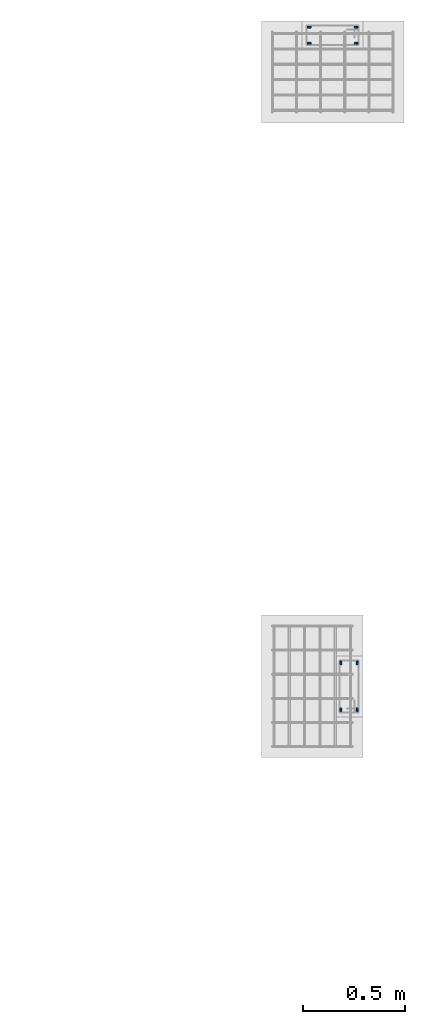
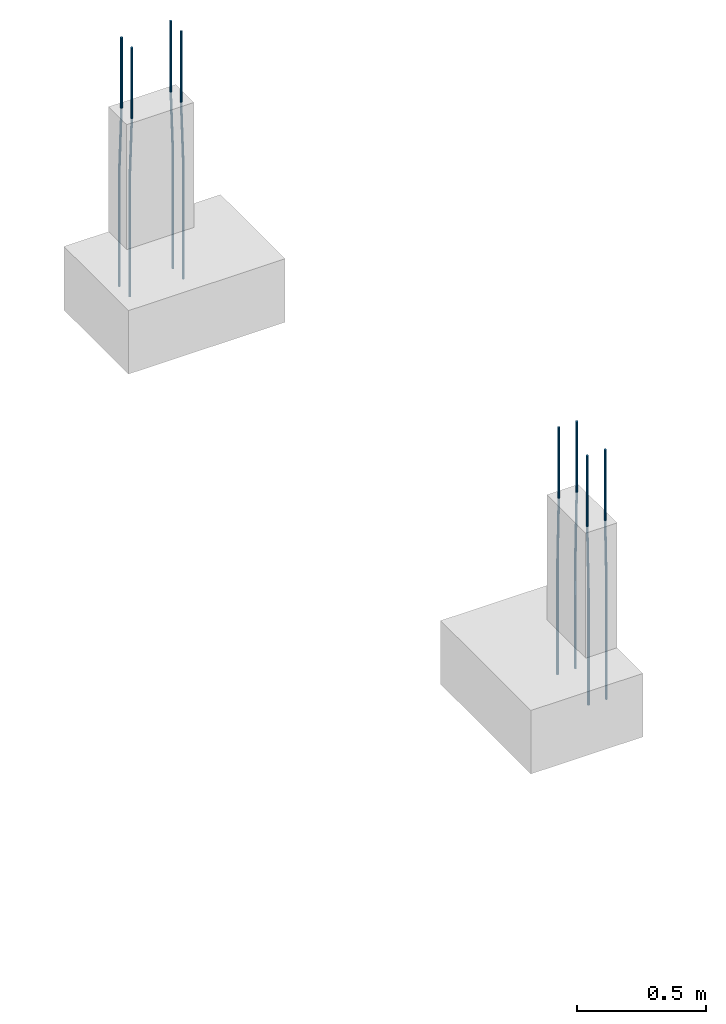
# One storey, part 67 of 119: 8 reinforcing bars.
"""IFC4 building model written with IfcOpenShell, lengths in centimetres."""

import ifcopenshell
import ifcopenshell.guid

model = None  # the IFC model being written
_history = None  # IfcOwnerHistory: only IFC2X3 demands one
_inside = {}  # id of a spatial element -> (the spatial element, [elements in it])
_under = {}  # id of a project, library or spatial element -> (it, [spatial elements below it])
_declared = {}  # id of a project -> (the project, [libraries it declares])
_typed = {}  # id of a type object -> (the type object, [elements of that type])
_made_of = {}  # id of a material, layer set ... -> (it, [elements and type objects made of it])


def new_model(schema):
    """Start an empty IFC model of exactly this schema.

    Asked for "IFC4X3", IfcOpenShell would pick the latest addendum, in which some entities
    have other attributes; the version numbers below select the first issue.
    IFC2X3 requires an IfcOwnerHistory on every rooted entity: one is made here for all.
    """
    global model, _history
    if schema == "IFC4X3":
        model = ifcopenshell.file(schema_version=(4, 3, 0, 0))
    else:
        model = ifcopenshell.file(schema=schema)
    _inside.clear()
    _under.clear()
    _declared.clear()
    _typed.clear()
    _made_of.clear()
    _history = None
    if model.schema == "IFC2X3":
        org = make("IfcOrganization", Name="unknown")
        user = make(
            "IfcPersonAndOrganization",
            ThePerson=make("IfcPerson", FamilyName="unknown"),
            TheOrganization=org,
        )
        app = make(
            "IfcApplication",
            ApplicationDeveloper=org,
            Version="unknown",
            ApplicationFullName="unknown",
            ApplicationIdentifier="unknown",
        )
        _history = make(
            "IfcOwnerHistory",
            OwningUser=user,
            OwningApplication=app,
            ChangeAction="ADDED",
            CreationDate=0,
        )
    return model


def make(cls, **values):
    """One entity of the class cls with the attributes given. An attribute that is None is left unset."""
    return model.create_entity(
        cls, **{name: value for name, value in values.items() if value is not None}
    )


def entity(cls, *values):
    """Any entity or typed value of the class cls, its attributes in the order of the schema. None: left unset."""
    e = model.create_entity(cls)
    for i, value in enumerate(values):
        if value is not None:
            e[i] = value
    return e


def rooted(cls, **values):
    """An entity with a GlobalId (a new one), such as an element, a storey or a relation."""
    return make(cls, GlobalId=ifcopenshell.guid.new(), OwnerHistory=_history, **values)


def si_unit(unit_type, name, prefix=None):
    """IfcSIUnit, for example si_unit("LENGTHUNIT", "METRE", prefix="MILLI")."""
    return make("IfcSIUnit", UnitType=unit_type, Prefix=prefix, Name=name)


def derived_unit(unit_type, elements):
    """IfcDerivedUnit: a product of units, each with its exponent."""
    return make(
        "IfcDerivedUnit",
        Elements=[
            make("IfcDerivedUnitElement", Unit=unit, Exponent=power)
            for unit, power in elements
        ],
        UnitType=unit_type,
    )


def assignment(units):
    """IfcUnitAssignment: the units of a project."""
    return None if units is None else make("IfcUnitAssignment", Units=units)


def point(xyz):
    """IfcCartesianPoint."""
    return None if xyz is None else make("IfcCartesianPoint", Coordinates=xyz)


def direction(xyz):
    """IfcDirection."""
    return None if xyz is None else make("IfcDirection", DirectionRatios=xyz)


def frame(location, z_axis=None, x_axis=None):
    """IfcAxis2Placement3D, a coordinate frame: its origin and axes. An axis left out is left unset."""
    return make(
        "IfcAxis2Placement3D",
        Location=point(location),
        Axis=direction(z_axis),
        RefDirection=direction(x_axis),
    )


def origin_with_axes():
    """The frame at (0, 0, 0) with the z axis (0, 0, 1) and the x axis (1, 0, 0) written out."""
    return frame((0.0, 0.0, 0.0), z_axis=(0.0, 0.0, 1.0), x_axis=(1.0, 0.0, 0.0))


def place(relative_to, where):
    """IfcLocalPlacement: puts the frame where relative to a parent placement (None: the world)."""
    return make(
        "IfcLocalPlacement", PlacementRelTo=relative_to, RelativePlacement=where
    )


def context(
    kind, dimensions, precision=None, world=None, true_north=None, identifier=None
):
    """IfcGeometricRepresentationContext, for example the 3D "Model" context."""
    return make(
        "IfcGeometricRepresentationContext",
        ContextIdentifier=identifier,
        ContextType=kind,
        CoordinateSpaceDimension=dimensions,
        Precision=precision,
        WorldCoordinateSystem=world,
        TrueNorth=true_north,
    )


def project(units=None, contexts=None):
    """IfcProject with its units and contexts."""
    return rooted(
        "IfcProject",
        Name="project",
        RepresentationContexts=contexts,
        UnitsInContext=assignment(units),
    )


def spatial(cls, under=None, at=None, **own):
    """A site, building, storey or space (cls), placed at a placement, below another one or the project."""
    s = rooted(cls, ObjectPlacement=at, **own)
    if under is not None:
        _under.setdefault(under.id(), (under, []))[1].append(s)
    return s


def shape(context_of_items, identifier, shape_type, items):
    """IfcShapeRepresentation: the items that make up one representation, for example the "Body"."""
    return make(
        "IfcShapeRepresentation",
        ContextOfItems=context_of_items,
        RepresentationIdentifier=identifier,
        RepresentationType=shape_type,
        Items=items,
    )


def made_of(thing, what):
    """Note that an element or type object is made of a material, layer set ...; save() writes the relation."""
    if what is not None:
        _made_of.setdefault(what.id(), (what, []))[1].append(thing)
    return thing


def element(
    cls,
    number,
    at=None,
    inside=None,
    cuts=None,
    type_object=None,
    material=None,
    context=None,
    identifier="Body",
    shape_type=None,
    held_by="IfcProductDefinitionShape",
    body=None,
    shapes=None,
    **own,
):
    """One element of the class cls, such as IfcWall. Its Tag is "e" and its number.

    at: its placement. inside: the storey or other place that contains it. cuts: it is an
    opening in that element (IfcRelVoidsElement). A single representation is given by context,
    identifier, shape_type and body (its items); several are given by shapes. held_by: the class
    of the entity that holds the representations. save() writes the other relations.
    """
    e = rooted(cls, Tag="e%d" % number, ObjectPlacement=at, **own)
    if body is not None:
        shapes = [shape(context, identifier, shape_type, body)]
    if shapes is not None:
        e.Representation = make(held_by, Representations=shapes)
    if inside is not None:
        _inside.setdefault(inside.id(), (inside, []))[1].append(e)
    if cuts is not None:
        rooted(
            "IfcRelVoidsElement", RelatingBuildingElement=cuts, RelatedOpeningElement=e
        )
    if type_object is not None:
        _typed.setdefault(type_object.id(), (type_object, []))[1].append(e)
    return made_of(e, material)


def aggregate(whole, parts):
    """IfcRelAggregates: a whole, such as a stair, and the parts it consists of."""
    return rooted("IfcRelAggregates", RelatingObject=whole, RelatedObjects=parts)


def save(model, path):
    """Write the relations noted so far, then the file.

    IfcRelAggregates (storeys below a building ...), IfcRelContainedInSpatialStructure (elements
    in a storey), IfcRelDefinesByType, IfcRelAssociatesMaterial and IfcRelDeclares: one each for
    every whole, place, type object, material and project.
    """
    for whole, parts in _under.values():
        aggregate(whole, parts)
    for where, things in _inside.values():
        rooted(
            "IfcRelContainedInSpatialStructure",
            RelatedElements=things,
            RelatingStructure=where,
        )
    for kind, things in _typed.values():
        rooted("IfcRelDefinesByType", RelatedObjects=things, RelatingType=kind)
    for what, things in _made_of.values():
        rooted("IfcRelAssociatesMaterial", RelatedObjects=things, RelatingMaterial=what)
    for by, libraries in _declared.values():
        rooted("IfcRelDeclares", RelatingContext=by, RelatedDefinitions=libraries)
    model.write(path)


model = new_model("IFC4")

# Units and contexts
model_context = context("Model", 3, precision=1e-05, world=origin_with_axes(), identifier="Body")
ifc_project = project(units=[si_unit("LENGTHUNIT", "METRE", prefix="CENTI"), si_unit("VOLUMEUNIT", "CUBIC_METRE"), si_unit("AREAUNIT", "SQUARE_METRE"), si_unit("POWERUNIT", "WATT"), si_unit("LUMINOUSFLUXUNIT", "LUMEN"), si_unit("ELECTRICCURRENTUNIT", "AMPERE"), si_unit("PRESSUREUNIT", "PASCAL", prefix="KILO"), si_unit("MASSUNIT", "GRAM", prefix="KILO"), si_unit("PLANEANGLEUNIT", "RADIAN"), derived_unit("VOLUMETRICFLOWRATEUNIT", [(si_unit("LENGTHUNIT", "METRE"), 3), (si_unit("TIMEUNIT", "SECOND"), -1)])], contexts=[model_context])

# Site, building, storey
site_placement = place(None, frame((-4000.0, 0.0, 0.0), z_axis=(0.0, 0.0, 1.0), x_axis=(1.0, 0.0, 0.0)))
site = spatial("IfcSite", under=ifc_project, at=site_placement, Name="PADRÃO")
building_placement = place(site_placement, frame((0.0, 0.0, -14.0)))
building = spatial("IfcBuilding", under=site, at=building_placement, Name="CRECHE PRÉ-ESCOLA TIPO 2")
storey_placement = place(building_placement, origin_with_axes())
storey = spatial("IfcBuildingStorey", under=building, at=storey_placement, Name="FUNDAÇÃO", CompositionType="ELEMENT", Elevation=-14.0)

# Reinforcing bars
for number, where, z_axis, x_axis, name in (
    (1, (3995.5, 4492.0, 33.3573001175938), (0.0, 0.0, 1.0), (1.0, 0.0, 0.0), "P14 - Longitudinal"),
    (2, (3995.5, 4484.0, 33.3573001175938), (0.0, 0.0, 1.0), (1.0, 0.0, 0.0), "P14 - Longitudinal"),
):
    element("IfcReinforcingBar", number, at=place(storey_placement, frame(where, z_axis=z_axis, x_axis=x_axis)), inside=storey, Name=name, BarLength=0.0, CrossSectionArea=7.853981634e-05, NominalDiameter=1.0, PredefinedType="MAIN", context=model_context, shape_type="AdvancedSweptSolid", body=[
        entity("IfcSweptDiskSolid", entity("IfcCompositeCurve", [entity("IfcCompositeCurveSegment", "CONTINUOUS", True, entity("IfcPolyline", [entity("IfcCartesianPoint", [0.5, 0.0, -117.357300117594]), entity("IfcCartesianPoint", [0.5, 0.0, -63.3573001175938])])), entity("IfcCompositeCurveSegment", "CONTINUOUS", True, entity("IfcPolyline", [entity("IfcCartesianPoint", [0.5, 0.0, -63.3573001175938]), entity("IfcCartesianPoint", [-0.5, 0.0, -33.3573001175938])])), entity("IfcCompositeCurveSegment", "CONTINUOUS", True, entity("IfcPolyline", [entity("IfcCartesianPoint", [-0.5, 0.0, -33.3573001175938]), entity("IfcCartesianPoint", [-0.5, 0.0, 0.0])]))], False), 0.5),
    ])
for number, where, z_axis, x_axis, name in (
    (3, (3972.5, 4484.0, 33.3573001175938), (0.0, 0.0, 1.0), (1.0, 0.0, 0.0), "P14 - Longitudinal"),
    (4, (3972.5, 4492.0, 33.3573001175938), (0.0, 0.0, 1.0), (1.0, 0.0, 0.0), "P14 - Longitudinal"),
):
    element("IfcReinforcingBar", number, at=place(storey_placement, frame(where, z_axis=z_axis, x_axis=x_axis)), inside=storey, Name=name, BarLength=0.0, CrossSectionArea=7.853981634e-05, NominalDiameter=1.0, PredefinedType="MAIN", context=model_context, shape_type="AdvancedSweptSolid", body=[
        entity("IfcSweptDiskSolid", entity("IfcCompositeCurve", [entity("IfcCompositeCurveSegment", "CONTINUOUS", True, entity("IfcPolyline", [entity("IfcCartesianPoint", [-0.5, 0.0, -117.357300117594]), entity("IfcCartesianPoint", [-0.5, 0.0, -63.3573001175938])])), entity("IfcCompositeCurveSegment", "CONTINUOUS", True, entity("IfcPolyline", [entity("IfcCartesianPoint", [-0.5, 0.0, -63.3573001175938]), entity("IfcCartesianPoint", [0.5, 0.0, -33.3573001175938])])), entity("IfcCompositeCurveSegment", "CONTINUOUS", True, entity("IfcPolyline", [entity("IfcCartesianPoint", [0.5, 0.0, -33.3573001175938]), entity("IfcCartesianPoint", [0.5, 0.0, 0.0])]))], False), 0.5),
    ])
reinforcing_bar_1_placement = place(storey_placement, frame((3996.0, 4180.0, 33.3573001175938), z_axis=(0.0, 0.0, 1.0), x_axis=(1.0, 0.0, 0.0)))
element("IfcReinforcingBar", 5, at=reinforcing_bar_1_placement, inside=storey, Name="P16 - Longitudinal", BarLength=0.0, CrossSectionArea=7.853981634e-05, NominalDiameter=1.0, PredefinedType="MAIN", context=model_context, shape_type="AdvancedSweptSolid", body=[
    entity("IfcSweptDiskSolid", entity("IfcCompositeCurve", [entity("IfcCompositeCurveSegment", "CONTINUOUS", True, entity("IfcPolyline", [entity("IfcCartesianPoint", [0.0, 0.5, -117.357300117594]), entity("IfcCartesianPoint", [0.0, 0.5, -63.3573001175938])])), entity("IfcCompositeCurveSegment", "CONTINUOUS", True, entity("IfcPolyline", [entity("IfcCartesianPoint", [0.0, 0.5, -63.3573001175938]), entity("IfcCartesianPoint", [0.0, -0.5, -33.3573001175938])])), entity("IfcCompositeCurveSegment", "CONTINUOUS", True, entity("IfcPolyline", [entity("IfcCartesianPoint", [0.0, -0.5, -33.3573001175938]), entity("IfcCartesianPoint", [0.0, -0.5, 0.0])]))], False), 0.5),
])
reinforcing_bar_2_placement = place(storey_placement, frame((3988.0, 4157.0, 33.3573001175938), z_axis=(0.0, 0.0, 1.0), x_axis=(1.0, 0.0, 0.0)))
element("IfcReinforcingBar", 6, at=reinforcing_bar_2_placement, inside=storey, Name="P16 - Longitudinal", BarLength=0.0, CrossSectionArea=7.853981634e-05, NominalDiameter=1.0, PredefinedType="MAIN", context=model_context, shape_type="AdvancedSweptSolid", body=[
    entity("IfcSweptDiskSolid", entity("IfcCompositeCurve", [entity("IfcCompositeCurveSegment", "CONTINUOUS", True, entity("IfcPolyline", [entity("IfcCartesianPoint", [0.0, -0.5, -117.357300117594]), entity("IfcCartesianPoint", [0.0, -0.5, -63.3573001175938])])), entity("IfcCompositeCurveSegment", "CONTINUOUS", True, entity("IfcPolyline", [entity("IfcCartesianPoint", [0.0, -0.5, -63.3573001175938]), entity("IfcCartesianPoint", [0.0, 0.5, -33.3573001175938])])), entity("IfcCompositeCurveSegment", "CONTINUOUS", True, entity("IfcPolyline", [entity("IfcCartesianPoint", [0.0, 0.5, -33.3573001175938]), entity("IfcCartesianPoint", [0.0, 0.5, 0.0])]))], False), 0.5),
])
reinforcing_bar_3_placement = place(storey_placement, frame((3988.0, 4180.0, 33.3573001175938), z_axis=(0.0, 0.0, 1.0), x_axis=(1.0, 0.0, 0.0)))
element("IfcReinforcingBar", 7, at=reinforcing_bar_3_placement, inside=storey, Name="P16 - Longitudinal", BarLength=0.0, CrossSectionArea=7.853981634e-05, NominalDiameter=1.0, PredefinedType="MAIN", context=model_context, shape_type="AdvancedSweptSolid", body=[
    entity("IfcSweptDiskSolid", entity("IfcCompositeCurve", [entity("IfcCompositeCurveSegment", "CONTINUOUS", True, entity("IfcPolyline", [entity("IfcCartesianPoint", [0.0, 0.5, -117.357300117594]), entity("IfcCartesianPoint", [0.0, 0.5, -63.3573001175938])])), entity("IfcCompositeCurveSegment", "CONTINUOUS", True, entity("IfcPolyline", [entity("IfcCartesianPoint", [0.0, 0.5, -63.3573001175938]), entity("IfcCartesianPoint", [0.0, -0.5, -33.3573001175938])])), entity("IfcCompositeCurveSegment", "CONTINUOUS", True, entity("IfcPolyline", [entity("IfcCartesianPoint", [0.0, -0.5, -33.3573001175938]), entity("IfcCartesianPoint", [0.0, -0.5, 0.0])]))], False), 0.5),
])
reinforcing_bar_4_placement = place(storey_placement, frame((3996.0, 4157.0, 33.3573001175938), z_axis=(0.0, 0.0, 1.0), x_axis=(1.0, 0.0, 0.0)))
element("IfcReinforcingBar", 8, at=reinforcing_bar_4_placement, inside=storey, Name="P16 - Longitudinal", BarLength=0.0, CrossSectionArea=7.853981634e-05, NominalDiameter=1.0, PredefinedType="MAIN", context=model_context, shape_type="AdvancedSweptSolid", body=[
    entity("IfcSweptDiskSolid", entity("IfcCompositeCurve", [entity("IfcCompositeCurveSegment", "CONTINUOUS", True, entity("IfcPolyline", [entity("IfcCartesianPoint", [0.0, -0.5, -117.357300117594]), entity("IfcCartesianPoint", [0.0, -0.5, -63.3573001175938])])), entity("IfcCompositeCurveSegment", "CONTINUOUS", True, entity("IfcPolyline", [entity("IfcCartesianPoint", [0.0, -0.5, -63.3573001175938]), entity("IfcCartesianPoint", [0.0, 0.5, -33.3573001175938])])), entity("IfcCompositeCurveSegment", "CONTINUOUS", True, entity("IfcPolyline", [entity("IfcCartesianPoint", [0.0, 0.5, -33.3573001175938]), entity("IfcCartesianPoint", [0.0, 0.5, 0.0])]))], False), 0.5),
])

save(model, "model.ifc")
